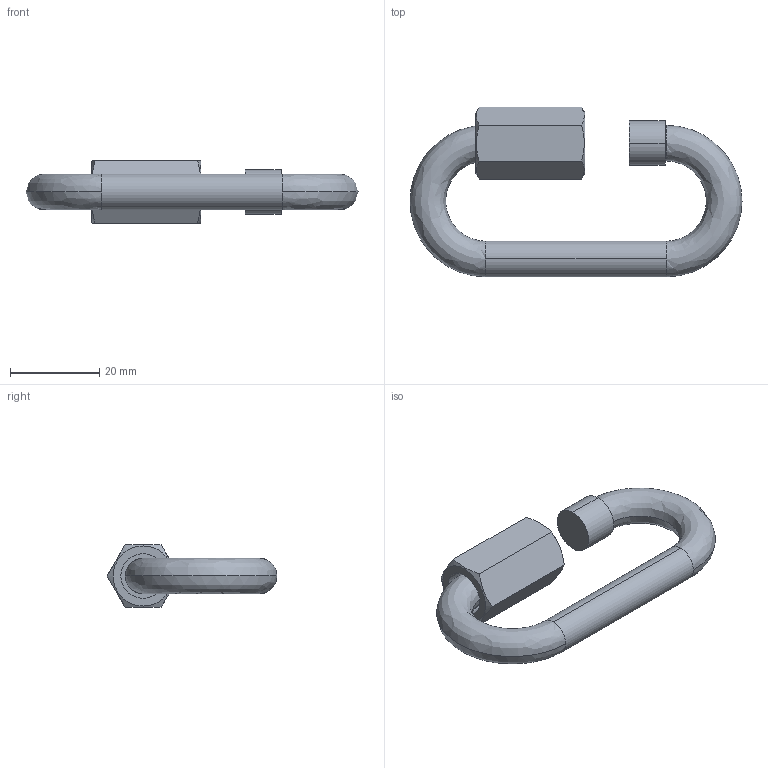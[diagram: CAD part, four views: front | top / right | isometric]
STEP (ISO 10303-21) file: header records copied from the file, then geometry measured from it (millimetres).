
FILE_DESCRIPTION (( 'STEP AP203' ), '1' );
FILE_NAME ('EB-923S-4.STEP', '2013-08-09T02:29:01', ( 'SDS' ), ( 'SDS' ), 'SwSTEP 2.0', 'SolidWorks 2002296', '' );
FILE_SCHEMA (( 'CONFIG_CONTROL_DESIGN' ));
Length unit declared in the file: millimetre
Products named in the file (3): EB-923S-4; EB-923S-41_蹬怮椔; EB-923S-42_蹬怮椔
Assembly tree (2 placements, depth 2):
  EB-923S-4
    EB-923S-41_蹬怮椔
    EB-923S-42_蹬怮椔
Bounding box: 74.5 x 38.08 x 14 mm (x, y, z)
Volume: 10306.6 mm3; surface area: 6257.4 mm2
Topology: 2 solids, 2 shells, 32 faces, 78 edges, 52 vertices
Faces by surface type: plane 12, cylinder 12, cone 4, bspline 4
Entity records: 1467 total; most frequent: CARTESIAN_POINT 411, DIRECTION 168, ORIENTED_EDGE 156, EDGE_CURVE 78, AXIS2_PLACEMENT_3D 73, VERTEX_POINT 52, CIRCLE 40, EDGE_LOOP 36
